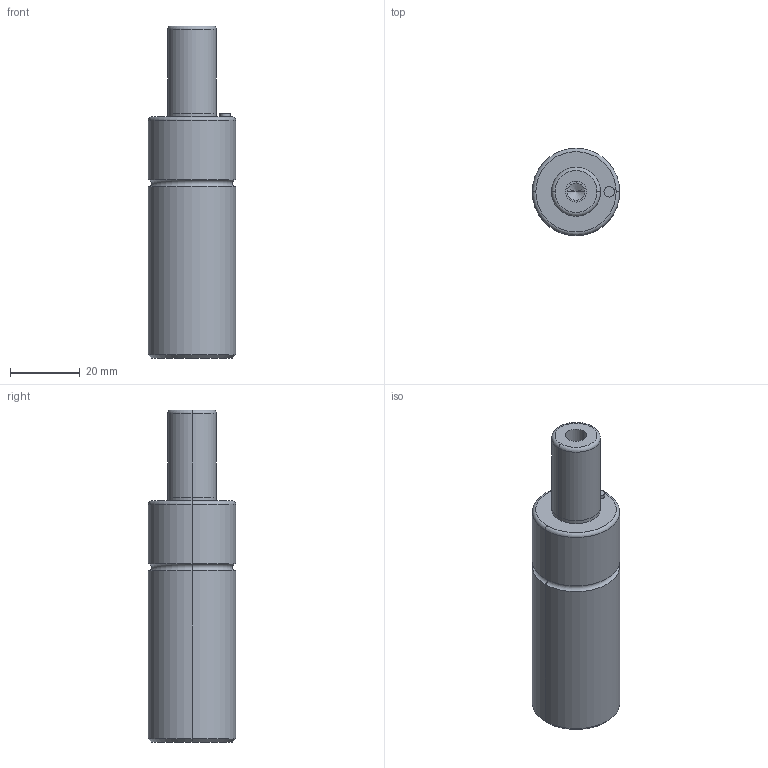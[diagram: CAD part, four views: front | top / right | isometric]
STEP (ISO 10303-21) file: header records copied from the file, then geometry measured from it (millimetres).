
FILE_DESCRIPTION(/* description */ (''),/* implementation_level */ '2;1');
FILE_NAME(/* name */ '3d_mgsa25-25_04557_r00.stp',/* time_stamp */ '2011-01-10T14:13:36+09:00',/* author */ ('MISUMI'),/* organization */ (''),/* preprocessor_version */ 'ST-DEVELOPER v11',/* originating_system */ 'UGS - NX 5.0',/* authorisation */ '');
FILE_SCHEMA (('CONFIG_CONTROL_DESIGN'));
Length unit declared in the file: millimetre
Products named in the file (1): 3d_mgsa25-25_04557_r00
Bounding box: 25 x 25 x 95 mm (x, y, z)
Volume: 37203.4 mm3; surface area: 7863.1 mm2
Topology: 1 solids, 1 shells, 36 faces, 74 edges, 42 vertices
Faces by surface type: cylinder 18, torus 6, cone 6, plane 6
Entity records: 1014 total; most frequent: DIRECTION 190, CARTESIAN_POINT 149, ORIENTED_EDGE 140, AXIS2_PLACEMENT_3D 83, EDGE_CURVE 70, CIRCLE 46, EDGE_LOOP 42, VERTEX_POINT 42
